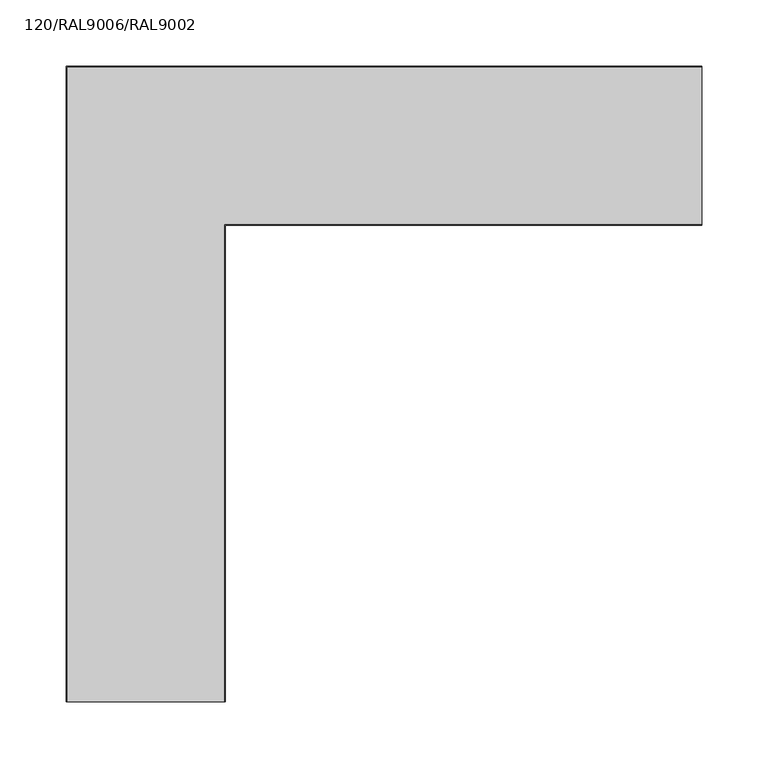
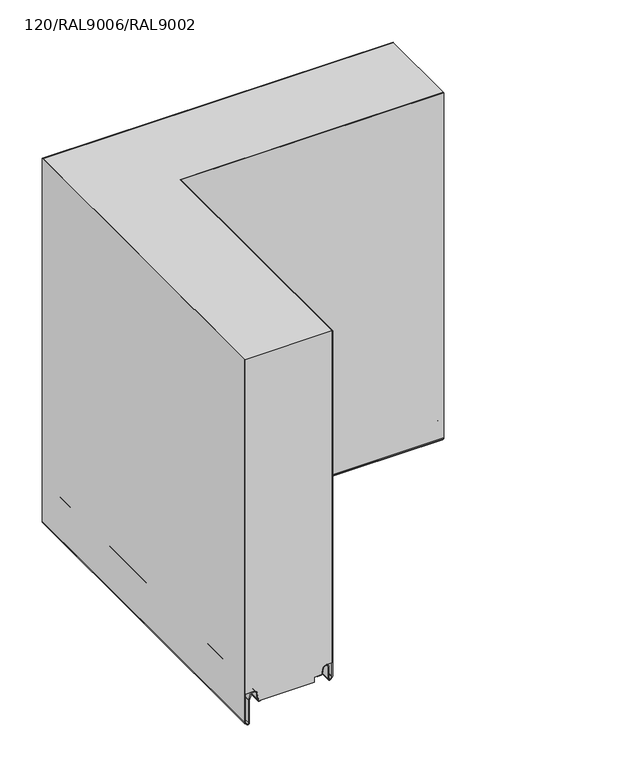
"""IFC4 building model written with IfcOpenShell, lengths in millimetres: plate geometry, TR_C_H_FHL_Corner_Tr_B_cut_GROOVE : 120/RAL9006/RAL9002."""

from ifc_helpers import new_model, si_unit, frame, origin, place, context, project, spatial, polyline, circle_curve, ellipse_curve, source, transform, mapped, element, save
from ifc_brep_helpers import plane_surface, cylinder_surface, revolved_surface, advanced_brep


def plate_120_ral9006_ral9002_a70e4969(model_context):
    return source(origin(), model_context, "Body", "AdvancedBrep", [
        advanced_brep(
        [(240.0, -20.8, 0.0), (240.0, -19.7908279, 0.1), (240.0, -18.0972969, 1.6518352), (240.0, -17.2333835, 11.5264116), (240.0, -12.3520294, 15.9993484), (240.0, -0.8, 15.9993484), (240.0, -0.8, 500.0), (240.0, -119.2, 500.0), (240.0, -119.2, 19.9), (240.0, -110.55, 19.9), (240.0, -106.364567, 16.3880048), (240.0, -105.0281817, 8.808987), (240.0, -103.9448932, 7.9), (240.0, -94.86, 7.9), (240.0, -94.86, 0.0), (-145.14, -94.86, 0.0), (-145.14, -480.0, 0.0), (-219.2, -480.0, 0.0), (-219.2, -20.8, 0.0), (-145.14, -480.0, 7.9), (-136.0551068, -480.0, 7.9), (-134.9718183, -480.0, 8.808987), (-133.635433, -480.0, 16.3880048), (-129.45, -480.0, 19.9), (-120.8, -480.0, 19.9), (-120.8, -480.0, 500.0), (-239.2, -480.0, 500.0), (-239.2, -480.0, 15.9993484), (-227.6479706, -480.0, 15.9993484), (-222.7666165, -480.0, 11.5264116), (-221.9027031, -480.0, 1.6518352), (-220.2091721, -480.0, 0.1), (-120.8, -119.2, 19.9), (-129.45, -110.55, 19.9), (-133.635433, -106.364567, 16.3880048), (-134.9718183, -105.0281817, 8.808987), (-136.0551068, -103.9448932, 7.9), (-145.14, -94.86, 7.9), (-220.2091721, -19.7908279, 0.1), (-221.9027031, -18.0972969, 1.6518352), (-222.7666165, -17.2333835, 11.5264116), (-227.6479706, -12.3520294, 15.9993484), (-239.2, -0.8, 15.9993484), (-239.2, -0.8, 500.0), (-120.8, -119.2, 500.0)],
        [
            (0, 1),
            (1, 2, circle_curve(frame((240.0, -19.7908279, 1.8), z_axis=(1.0, 0.0, 0.0), x_axis=(0.0, -1.0, 0.0)), 1.7)),
            (2, 3),
            (3, 4, circle_curve(frame((240.0, -12.3520294, 11.0993484), z_axis=(-1.0, 0.0, 0.0), x_axis=(0.0, -1.0, 0.0)), 4.9)),
            (4, 5),
            (5, 6),
            (6, 7),
            (7, 8),
            (8, 9),
            (9, 10, circle_curve(frame((240.0, -110.55, 15.65), z_axis=(-1.0, 0.0, 0.0), x_axis=(0.0, -1.0, 0.0)), 4.25)),
            (10, 11),
            (11, 12, circle_curve(frame((240.0, -103.9448932, 9.0), z_axis=(1.0, 0.0, 0.0), x_axis=(0.0, -1.0, 0.0)), 1.1)),
            (12, 13),
            (13, 14),
            (14, 0),
            (14, 15),
            (15, 16),
            (16, 17),
            (17, 18),
            (18, 0),
            (16, 19),
            (19, 20),
            (20, 21, circle_curve(frame((-136.0551068, -480.0, 9.0), z_axis=(0.0, -1.0, 0.0), x_axis=(1.0, 0.0, 0.0)), 1.1)),
            (21, 22),
            (22, 23, circle_curve(frame((-129.45, -480.0, 15.65), z_axis=(0.0, 1.0, 0.0), x_axis=(1.0, 0.0, 0.0)), 4.25)),
            (23, 24),
            (24, 25),
            (25, 26),
            (26, 27),
            (27, 28),
            (28, 29, circle_curve(frame((-227.6479706, -480.0, 11.0993484), z_axis=(0.0, 1.0, 0.0), x_axis=(1.0, 0.0, 0.0)), 4.9)),
            (29, 30),
            (30, 31, circle_curve(frame((-220.2091721, -480.0, 1.8), z_axis=(0.0, -1.0, 0.0), x_axis=(1.0, 0.0, 0.0)), 1.7)),
            (31, 17),
            (8, 32),
            (32, 24),
            (23, 33),
            (33, 9),
            (33, 34, ellipse_curve(frame((-129.45, -110.55, 15.65), z_axis=(-0.7071067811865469, -0.7071067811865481, 0.0), x_axis=(-0.7071067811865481, 0.7071067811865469, 0.0)), 6.0104076, 4.25)),
            (34, 10),
            (34, 35),
            (35, 11),
            (35, 36, ellipse_curve(frame((-136.0551068, -103.9448932, 9.0), z_axis=(0.7071067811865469, 0.7071067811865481, 0.0), x_axis=(0.7071067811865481, -0.7071067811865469, 0.0)), 1.5556349, 1.1)),
            (36, 12),
            (36, 20),
            (19, 37),
            (37, 13),
            (37, 15),
            (18, 38),
            (38, 1),
            (38, 39, ellipse_curve(frame((-220.2091721, -19.7908279, 1.8), z_axis=(0.7071067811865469, 0.7071067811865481, 0.0), x_axis=(0.7071067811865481, -0.7071067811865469, 0.0)), 2.4041631, 1.7)),
            (39, 2),
            (39, 40),
            (40, 3),
            (40, 41, ellipse_curve(frame((-227.6479706, -12.3520294, 11.0993484), z_axis=(-0.7071067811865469, -0.7071067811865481, 0.0), x_axis=(-0.7071067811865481, 0.7071067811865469, 0.0)), 6.9296465, 4.9)),
            (41, 4),
            (41, 28),
            (27, 42),
            (42, 5),
            (22, 34),
            (21, 35),
            (31, 38),
            (30, 39),
            (29, 40),
            (42, 43),
            (43, 6),
            (7, 44),
            (44, 32),
            (26, 43),
            (44, 25),
        ],
        [
            plane_surface(frame((240.0, 0.0, 0.0), z_axis=(1.0, 0.0, 0.0), x_axis=(0.0, 0.0, 1.0))),
            plane_surface(frame((240.0, -94.86, 0.0), z_axis=(0.0, 0.0, -1.0), x_axis=(-1.0, 0.0, 0.0))),
            plane_surface(frame((-240.0, -480.0, 0.0), z_axis=(0.0, -1.0, 0.0), x_axis=(0.0, 0.0, 1.0))),
            plane_surface(frame((240.0, -119.2, 19.9), z_axis=(0.0, 0.0, -1.0), x_axis=(-1.0, 0.0, 0.0))),
            revolved_surface(polyline([(-133.69999997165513, -114.8, 15.65), (240.0, -114.8, 15.65)]), (240.0, -110.55, 15.65), (-1.0, 0.0, 0.0)),
            plane_surface(frame((240.0, -106.364567, 16.3880048), z_axis=(0.0, -0.9848077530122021, -0.17364817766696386), x_axis=(-1.0, 0.0, 0.0))),
            cylinder_surface(frame((240.0, -103.9448932, 9.0), z_axis=(1.0, 0.0, 0.0), x_axis=(0.0, -1.0, 0.0)), 1.1),
            plane_surface(frame((240.0, -103.9448932, 7.9), z_axis=(0.0, 0.0, -1.0), x_axis=(-1.0, 0.0, 0.0))),
            plane_surface(frame((240.0, -94.86, 7.9), z_axis=(0.0, -1.0, 0.0), x_axis=(-1.0, 0.0, 0.0))),
            plane_surface(frame((240.0, -20.8, 0.0), z_axis=(0.0, 0.09860819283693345, -0.9951263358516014), x_axis=(-1.0, 0.0, 0.0))),
            cylinder_surface(frame((240.0, -19.7908279, 1.8), z_axis=(1.0, 0.0, 0.0), x_axis=(0.0, -1.0, 0.0)), 1.7),
            plane_surface(frame((240.0, -18.0972969, 1.6518352), z_axis=(0.0, 0.9961946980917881, -0.08715574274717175), x_axis=(-1.0, 0.0, 0.0))),
            revolved_surface(polyline([(-232.54797063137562, -17.252029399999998, 11.0993484), (240.0, -17.252029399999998, 11.0993484)]), (240.0, -12.3520294, 11.0993484), (-1.0, 0.0, 0.0)),
            plane_surface(frame((240.0, -12.3520294, 15.9993484), z_axis=(0.0, 0.0, -1.0), x_axis=(-1.0, 0.0, 0.0))),
            revolved_surface(polyline([(-125.19999999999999, -480.0, 15.65), (-125.19999999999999, -106.30000002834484, 15.65)]), (-129.45, 0.0, 15.65), (0.0, -1.0, 0.0)),
            plane_surface(frame((-133.635433, -106.364567, 16.3880048), z_axis=(0.9848077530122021, 0.0, -0.17364817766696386), x_axis=(0.0, -1.0, 0.0))),
            cylinder_surface(frame((-136.0551068, 0.0, 9.0), z_axis=(0.0, 1.0, 0.0), x_axis=(1.0, 0.0, 0.0)), 1.1),
            plane_surface(frame((-145.14, -94.86, 7.9), z_axis=(1.0, 0.0, 0.0), x_axis=(0.0, -1.0, 0.0))),
            plane_surface(frame((-219.2, -20.8, 0.0), z_axis=(-0.09860819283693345, 0.0, -0.9951263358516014), x_axis=(0.0, -1.0, 0.0))),
            cylinder_surface(frame((-220.2091721, 0.0, 1.8), z_axis=(0.0, 1.0, 0.0), x_axis=(1.0, 0.0, 0.0)), 1.7),
            plane_surface(frame((-221.9027031, -18.0972969, 1.6518352), z_axis=(-0.9961946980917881, 0.0, -0.08715574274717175), x_axis=(0.0, -1.0, 0.0))),
            revolved_surface(polyline([(-222.7479706, -480.0, 11.0993484), (-222.7479706, -7.452029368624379, 11.0993484)]), (-227.6479706, 0.0, 11.0993484), (0.0, -1.0, 0.0)),
            plane_surface(frame((240.0, -0.8, 15.9993484), z_axis=(0.0, 1.0, 0.0), x_axis=(-1.0, 0.0, 0.0))),
            plane_surface(frame((240.0, -119.2, 989.8218254), z_axis=(0.0, -1.0, 0.0), x_axis=(-1.0, 0.0, 0.0))),
            plane_surface(frame((-239.2, -0.8, 15.9993484), z_axis=(-1.0, 0.0, 0.0), x_axis=(0.0, -1.0, 0.0))),
            plane_surface(frame((-120.8, -119.2, 989.8218254), z_axis=(1.0, 0.0, 0.0), x_axis=(0.0, -1.0, 0.0))),
            plane_surface(frame((240.0, -120.0, 500.0), z_axis=(0.0, 0.0, 1.0), x_axis=(-1.0, 0.0, 0.0))),
        ],
        [
            (0, [[1, 2, 3, 4, 5, 6, 7, 8, 9, 10, 11, 12, 13, 14, 15]]),
            (1, [[-15, 16, 17, 18, 19, 20]]),
            (2, [[-18, 21, 22, 23, 24, 25, 26, 27, 28, 29, 30, 31, 32, 33, 34]]),
            (3, [[-9, 35, 36, -26, 37, 38]]),
            (4, [[-10, -38, 39, 40]]),
            (5, [[-11, -40, 41, 42]]),
            (6, [[-12, -42, 43, 44]]),
            (7, [[-13, -44, 45, -22, 46, 47]]),
            (8, [[-14, -47, 48, -16]]),
            (9, [[-1, -20, 49, 50]]),
            (10, [[-2, -50, 51, 52]]),
            (11, [[-3, -52, 53, 54]]),
            (12, [[-4, -54, 55, 56]]),
            (13, [[-5, -56, 57, -30, 58, 59]]),
            (14, [[-25, 60, -39, -37]]),
            (15, [[-24, 61, -41, -60]]),
            (16, [[-23, -45, -43, -61]]),
            (17, [[-17, -48, -46, -21]]),
            (18, [[-19, -34, 62, -49]]),
            (19, [[-33, 63, -51, -62]]),
            (20, [[-32, 64, -53, -63]]),
            (21, [[-31, -57, -55, -64]]),
            (22, [[-59, 65, 66, -6]]),
            (23, [[-35, -8, 67, 68]]),
            (24, [[-58, -29, 69, -65]]),
            (25, [[-36, -68, 70, -27]]),
            (26, [[-7, -66, -69, -28, -70, -67]]),
        ],
    ),
        advanced_brep(
        [(240.0, -0.8586044, -27.0752719), (240.0, 0.0, -25.1006169), (240.0, 0.0, 500.0), (240.0, -0.8, 500.0), (240.0, -0.8, -25.1006169), (240.0, -1.4042031, -26.4901889), (240.0, -3.3498018, -28.3044891), (240.0, -5.2, -27.5), (240.0, -5.2, 4.8267282), (240.0, -5.3797887, 5.9011031), (240.0, -7.7189884, 12.6946324), (240.0, -17.2333835, 11.5264116), (240.0, -18.0972969, 1.6518352), (240.0, -19.7908279, 0.1), (240.0, -20.8, 0.1), (240.0, -20.8, -0.7), (240.0, -19.7908279, -0.7), (240.0, -17.3003412, 1.5821106), (240.0, -16.4364277, 11.456687), (240.0, -8.4754033, 12.4341779), (240.0, -6.1362036, 5.6406486), (240.0, -6.0, 4.8267282), (240.0, -6.0, -27.5), (240.0, -2.8042031, -28.889572), (-239.1413956, -480.0, -27.0752719), (-237.1957969, -480.0, -28.889572), (-234.0, -480.0, -27.5), (-234.0, -480.0, 4.8267282), (-233.8637964, -480.0, 5.6406486), (-231.5245967, -480.0, 12.4341779), (-223.5635723, -480.0, 11.456687), (-222.6996588, -480.0, 1.5821106), (-220.2091721, -480.0, -0.7), (-219.2, -480.0, -0.7), (-219.2, -480.0, 0.1), (-220.2091721, -480.0, 0.1), (-221.9027031, -480.0, 1.6518352), (-222.7666165, -480.0, 11.5264116), (-232.2810116, -480.0, 12.6946324), (-234.6202113, -480.0, 5.9011031), (-234.8, -480.0, 4.8267282), (-234.8, -480.0, -27.5), (-236.6501982, -480.0, -28.3044891), (-238.5957969, -480.0, -26.4901889), (-239.2, -480.0, -25.1006169), (-239.2, -480.0, 500.0), (-240.0, -480.0, 500.0), (-240.0, -480.0, -25.1006169), (-239.2, -0.8, -25.1006169), (-238.5957969, -1.4042031, -26.4901889), (-236.6501982, -3.3498018, -28.3044891), (-234.8, -5.2, -27.5), (-234.8, -5.2, 4.8267282), (-234.6202113, -5.3797887, 5.9011031), (-232.2810116, -7.7189884, 12.6946324), (-222.7666165, -17.2333835, 11.5264116), (-221.9027031, -18.0972969, 1.6518352), (-220.2091721, -19.7908279, 0.1), (-219.2, -20.8, 0.1), (-219.2, -20.8, -0.7), (-220.2091721, -19.7908279, -0.7), (-222.6996588, -17.3003412, 1.5821106), (-223.5635723, -16.4364277, 11.456687), (-231.5245967, -8.4754033, 12.4341779), (-233.8637964, -6.1362036, 5.6406486), (-234.0, -6.0, 4.8267282), (-234.0, -6.0, -27.5), (-237.1957969, -2.8042031, -28.889572), (-239.1413956, -0.8586044, -27.0752719), (-240.0, 0.0, -25.1006169), (-240.0, 0.0, 500.0), (-239.2, -0.8, 500.0)],
        [
            (0, 1, circle_curve(frame((240.0, -2.7, -25.1006169), z_axis=(1.0, 0.0, 0.0), x_axis=(0.0, -1.0, 0.0)), 2.7)),
            (1, 2),
            (2, 3),
            (3, 4),
            (4, 5, circle_curve(frame((240.0, -2.7, -25.1006169), z_axis=(-1.0, 0.0, 0.0), x_axis=(0.0, -1.0, 0.0)), 1.9)),
            (5, 6),
            (6, 7, circle_curve(frame((240.0, -4.1, -27.5), z_axis=(-1.0, 0.0, 0.0), x_axis=(0.0, -1.0, 0.0)), 1.1)),
            (7, 8),
            (8, 9, circle_curve(frame((240.0, -8.5, 4.8267282), z_axis=(1.0, 0.0, 0.0), x_axis=(0.0, -1.0, 0.0)), 3.3)),
            (9, 10),
            (10, 11, circle_curve(frame((240.0, -12.3520294, 11.0993484), z_axis=(1.0, 0.0, 0.0), x_axis=(0.0, -1.0, 0.0)), 4.9)),
            (11, 12),
            (12, 13, circle_curve(frame((240.0, -19.7908279, 1.8), z_axis=(-1.0, 0.0, 0.0), x_axis=(0.0, -1.0, 0.0)), 1.7)),
            (13, 14),
            (14, 15),
            (15, 16),
            (16, 17, circle_curve(frame((240.0, -19.7908279, 1.8), z_axis=(1.0, 0.0, 0.0), x_axis=(0.0, -1.0, 0.0)), 2.5)),
            (17, 18),
            (18, 19, circle_curve(frame((240.0, -12.3520294, 11.0993484), z_axis=(-1.0, 0.0, 0.0), x_axis=(0.0, -1.0, 0.0)), 4.1)),
            (19, 20),
            (20, 21, circle_curve(frame((240.0, -8.5, 4.8267282), z_axis=(-1.0, 0.0, 0.0), x_axis=(0.0, -1.0, 0.0)), 2.5)),
            (21, 22),
            (22, 23, circle_curve(frame((240.0, -4.1, -27.5), z_axis=(1.0, 0.0, 0.0), x_axis=(0.0, -1.0, 0.0)), 1.9)),
            (23, 0),
            (24, 25),
            (25, 26, circle_curve(frame((-235.9, -480.0, -27.5), z_axis=(0.0, -1.0, 0.0), x_axis=(1.0, 0.0, 0.0)), 1.9)),
            (26, 27),
            (27, 28, circle_curve(frame((-231.5, -480.0, 4.8267282), z_axis=(0.0, 1.0, 0.0), x_axis=(1.0, 0.0, 0.0)), 2.5)),
            (28, 29),
            (29, 30, circle_curve(frame((-227.6479706, -480.0, 11.0993484), z_axis=(0.0, 1.0, 0.0), x_axis=(1.0, 0.0, 0.0)), 4.1)),
            (30, 31),
            (31, 32, circle_curve(frame((-220.2091721, -480.0, 1.8), z_axis=(0.0, -1.0, 0.0), x_axis=(1.0, 0.0, 0.0)), 2.5)),
            (32, 33),
            (33, 34),
            (34, 35),
            (35, 36, circle_curve(frame((-220.2091721, -480.0, 1.8), z_axis=(0.0, 1.0, 0.0), x_axis=(1.0, 0.0, 0.0)), 1.7)),
            (36, 37),
            (37, 38, circle_curve(frame((-227.6479706, -480.0, 11.0993484), z_axis=(0.0, -1.0, 0.0), x_axis=(1.0, 0.0, 0.0)), 4.9)),
            (38, 39),
            (39, 40, circle_curve(frame((-231.5, -480.0, 4.8267282), z_axis=(0.0, -1.0, 0.0), x_axis=(1.0, 0.0, 0.0)), 3.3)),
            (40, 41),
            (41, 42, circle_curve(frame((-235.9, -480.0, -27.5), z_axis=(0.0, 1.0, 0.0), x_axis=(1.0, 0.0, 0.0)), 1.1)),
            (42, 43),
            (43, 44, circle_curve(frame((-237.3, -480.0, -25.1006169), z_axis=(0.0, 1.0, 0.0), x_axis=(1.0, 0.0, 0.0)), 1.9)),
            (44, 45),
            (45, 46),
            (46, 47),
            (47, 24, circle_curve(frame((-237.3, -480.0, -25.1006169), z_axis=(0.0, -1.0, 0.0), x_axis=(1.0, 0.0, 0.0)), 2.7)),
            (4, 48),
            (48, 49, ellipse_curve(frame((-237.3, -2.7, -25.1006169), z_axis=(-0.7071067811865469, -0.7071067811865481, 0.0), x_axis=(-0.7071067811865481, 0.7071067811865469, 0.0)), 2.6870058, 1.9)),
            (49, 5),
            (49, 50),
            (50, 6),
            (50, 51, ellipse_curve(frame((-235.9, -4.1, -27.5), z_axis=(-0.7071067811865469, -0.7071067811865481, 0.0), x_axis=(-0.7071067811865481, 0.7071067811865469, 0.0)), 1.5556349, 1.1)),
            (51, 7),
            (51, 52),
            (52, 8),
            (52, 53, ellipse_curve(frame((-231.5, -8.5, 4.8267282), z_axis=(0.7071067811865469, 0.7071067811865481, 0.0), x_axis=(0.7071067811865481, -0.7071067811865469, 0.0)), 4.6669048, 3.3)),
            (53, 9),
            (53, 54),
            (54, 10),
            (54, 55, ellipse_curve(frame((-227.6479706, -12.3520294, 11.0993484), z_axis=(0.7071067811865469, 0.7071067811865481, 0.0), x_axis=(0.7071067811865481, -0.7071067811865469, 0.0)), 6.9296465, 4.9)),
            (55, 11),
            (55, 56),
            (56, 12),
            (56, 57, ellipse_curve(frame((-220.2091721, -19.7908279, 1.8), z_axis=(-0.7071067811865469, -0.7071067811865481, 0.0), x_axis=(-0.7071067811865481, 0.7071067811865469, 0.0)), 2.4041631, 1.7)),
            (57, 13),
            (57, 35),
            (34, 58),
            (58, 14),
            (58, 59),
            (59, 15),
            (59, 33),
            (32, 60),
            (60, 16),
            (60, 61, ellipse_curve(frame((-220.2091721, -19.7908279, 1.8), z_axis=(0.7071067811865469, 0.7071067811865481, 0.0), x_axis=(0.7071067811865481, -0.7071067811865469, 0.0)), 3.5355339, 2.5)),
            (61, 17),
            (61, 62),
            (62, 18),
            (62, 63, ellipse_curve(frame((-227.6479706, -12.3520294, 11.0993484), z_axis=(-0.7071067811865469, -0.7071067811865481, 0.0), x_axis=(-0.7071067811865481, 0.7071067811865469, 0.0)), 5.7982756, 4.1)),
            (63, 19),
            (63, 64),
            (64, 20),
            (64, 65, ellipse_curve(frame((-231.5, -8.5, 4.8267282), z_axis=(-0.7071067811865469, -0.7071067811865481, 0.0), x_axis=(-0.7071067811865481, 0.7071067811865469, 0.0)), 3.5355339, 2.5)),
            (65, 21),
            (65, 66),
            (66, 22),
            (66, 67, ellipse_curve(frame((-235.9, -4.1, -27.5), z_axis=(0.7071067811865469, 0.7071067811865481, 0.0), x_axis=(0.7071067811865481, -0.7071067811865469, 0.0)), 2.6870058, 1.9)),
            (67, 23),
            (67, 68),
            (68, 0),
            (68, 69, ellipse_curve(frame((-237.3, -2.7, -25.1006169), z_axis=(0.7071067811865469, 0.7071067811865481, 0.0), x_axis=(0.7071067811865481, -0.7071067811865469, 0.0)), 3.8183766, 2.7)),
            (69, 1),
            (43, 49),
            (48, 44),
            (42, 50),
            (41, 51),
            (40, 52),
            (39, 53),
            (38, 54),
            (37, 55),
            (36, 56),
            (31, 61),
            (30, 62),
            (29, 63),
            (28, 64),
            (27, 65),
            (26, 66),
            (25, 67),
            (24, 68),
            (47, 69),
            (69, 70),
            (70, 2),
            (3, 71),
            (71, 48),
            (46, 70),
            (71, 45),
        ],
        [
            plane_surface(frame((240.0, 0.0, 0.0), z_axis=(1.0, 0.0, 0.0), x_axis=(0.0, 0.0, 1.0))),
            plane_surface(frame((-240.0, -480.0, 0.0), z_axis=(0.0, -1.0, 0.0), x_axis=(0.0, 0.0, 1.0))),
            revolved_surface(polyline([(-239.2000000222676, -4.6, -25.1006169), (240.0, -4.6, -25.1006169)]), (240.0, -2.7, -25.1006169), (-1.0, 0.0, 0.0)),
            plane_surface(frame((240.0, -1.4042031, -26.4901889), z_axis=(0.0, -0.6819983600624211, 0.7313537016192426), x_axis=(-1.0, 0.0, 0.0))),
            revolved_surface(polyline([(-236.9999999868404, -5.199999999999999, -27.5), (240.0, -5.199999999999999, -27.5)]), (240.0, -4.1, -27.5), (-1.0, 0.0, 0.0)),
            plane_surface(frame((240.0, -5.2, -27.5), z_axis=(0.0, 1.0, 0.0), x_axis=(-1.0, 0.0, 0.0))),
            cylinder_surface(frame((240.0, -8.5, 4.8267282), z_axis=(1.0, 0.0, 0.0), x_axis=(0.0, -1.0, 0.0)), 3.3),
            plane_surface(frame((240.0, -5.3797887, 5.9011031), z_axis=(0.0, 0.9455185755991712, 0.32556815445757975), x_axis=(-1.0, 0.0, 0.0))),
            cylinder_surface(frame((240.0, -12.3520294, 11.0993484), z_axis=(1.0, 0.0, 0.0), x_axis=(0.0, -1.0, 0.0)), 4.9),
            plane_surface(frame((240.0, -17.2333835, 11.5264116), z_axis=(0.0, -0.9961946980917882, 0.08715574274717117), x_axis=(-1.0, 0.0, 0.0))),
            revolved_surface(polyline([(-221.90917213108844, -21.4908279, 1.8), (240.0, -21.4908279, 1.8)]), (240.0, -19.7908279, 1.8), (-1.0, 0.0, 0.0)),
            plane_surface(frame((240.0, -19.7908279, 0.1), z_axis=(0.0, 0.0, 1.0), x_axis=(-1.0, 0.0, 0.0))),
            plane_surface(frame((240.0, -20.8, 0.1), z_axis=(0.0, -1.0, 0.0), x_axis=(-1.0, 0.0, 0.0))),
            plane_surface(frame((240.0, -20.8, -0.7), z_axis=(0.0, 0.0, -1.0), x_axis=(-1.0, 0.0, 0.0))),
            cylinder_surface(frame((240.0, -19.7908279, 1.8), z_axis=(1.0, 0.0, 0.0), x_axis=(0.0, -1.0, 0.0)), 2.5),
            plane_surface(frame((240.0, -17.3003412, 1.5821106), z_axis=(0.0, 0.9961946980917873, -0.08715574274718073), x_axis=(-1.0, 0.0, 0.0))),
            revolved_surface(polyline([(-231.74797059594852, -16.4520294, 11.0993484), (240.0, -16.4520294, 11.0993484)]), (240.0, -12.3520294, 11.0993484), (-1.0, 0.0, 0.0)),
            plane_surface(frame((240.0, -8.4754033, 12.4341779), z_axis=(0.0, -0.9455185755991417, -0.3255681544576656), x_axis=(-1.0, 0.0, 0.0))),
            revolved_surface(polyline([(-234.0, -11.0, 4.8267282), (240.0, -11.0, 4.8267282)]), (240.0, -8.5, 4.8267282), (-1.0, 0.0, 0.0)),
            plane_surface(frame((240.0, -6.0, 4.8267282), z_axis=(0.0, -1.0, 0.0), x_axis=(-1.0, 0.0, 0.0))),
            cylinder_surface(frame((240.0, -4.1, -27.5), z_axis=(1.0, 0.0, 0.0), x_axis=(0.0, -1.0, 0.0)), 1.9),
            plane_surface(frame((240.0, -2.8042031, -28.889572), z_axis=(0.0, 0.6819983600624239, -0.7313537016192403), x_axis=(-1.0, 0.0, 0.0))),
            cylinder_surface(frame((240.0, -2.7, -25.1006169), z_axis=(1.0, 0.0, 0.0), x_axis=(0.0, -1.0, 0.0)), 2.7),
            revolved_surface(polyline([(-235.4, -480.0, -25.1006169), (-235.4, -0.7999999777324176, -25.1006169)]), (-237.3, 0.0, -25.1006169), (0.0, -1.0, 0.0)),
            plane_surface(frame((-238.5957969, -1.4042031, -26.4901889), z_axis=(0.6819983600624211, 0.0, 0.7313537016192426), x_axis=(0.0, -1.0, 0.0))),
            revolved_surface(polyline([(-234.8, -480.0, -27.5), (-234.8, -3.0000000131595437, -27.5)]), (-235.9, 0.0, -27.5), (0.0, -1.0, 0.0)),
            plane_surface(frame((-234.8, -5.2, -27.5), z_axis=(-1.0, 0.0, 0.0), x_axis=(0.0, -1.0, 0.0))),
            cylinder_surface(frame((-231.5, 0.0, 4.8267282), z_axis=(0.0, 1.0, 0.0), x_axis=(1.0, 0.0, 0.0)), 3.3),
            plane_surface(frame((-234.6202113, -5.3797887, 5.9011031), z_axis=(-0.9455185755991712, 0.0, 0.32556815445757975), x_axis=(0.0, -1.0, 0.0))),
            cylinder_surface(frame((-227.6479706, 0.0, 11.0993484), z_axis=(0.0, 1.0, 0.0), x_axis=(1.0, 0.0, 0.0)), 4.9),
            plane_surface(frame((-222.7666165, -17.2333835, 11.5264116), z_axis=(0.9961946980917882, 0.0, 0.08715574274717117), x_axis=(0.0, -1.0, 0.0))),
            revolved_surface(polyline([(-218.5091721, -480.0, 1.8), (-218.5091721, -18.09082786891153, 1.8)]), (-220.2091721, 0.0, 1.8), (0.0, -1.0, 0.0)),
            plane_surface(frame((-219.2, -20.8, 0.1), z_axis=(1.0, 0.0, 0.0), x_axis=(0.0, -1.0, 0.0))),
            cylinder_surface(frame((-220.2091721, 0.0, 1.8), z_axis=(0.0, 1.0, 0.0), x_axis=(1.0, 0.0, 0.0)), 2.5),
            plane_surface(frame((-222.6996588, -17.3003412, 1.5821106), z_axis=(-0.9961946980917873, 0.0, -0.08715574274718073), x_axis=(0.0, -1.0, 0.0))),
            revolved_surface(polyline([(-223.5479706, -480.0, 11.0993484), (-223.5479706, -8.252029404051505, 11.0993484)]), (-227.6479706, 0.0, 11.0993484), (0.0, -1.0, 0.0)),
            plane_surface(frame((-231.5245967, -8.4754033, 12.4341779), z_axis=(0.9455185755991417, 0.0, -0.3255681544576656), x_axis=(0.0, -1.0, 0.0))),
            revolved_surface(polyline([(-229.0, -480.0, 4.8267282), (-229.0, -6.0, 4.8267282)]), (-231.5, 0.0, 4.8267282), (0.0, -1.0, 0.0)),
            plane_surface(frame((-234.0, -6.0, 4.8267282), z_axis=(1.0, 0.0, 0.0), x_axis=(0.0, -1.0, 0.0))),
            cylinder_surface(frame((-235.9, 0.0, -27.5), z_axis=(0.0, 1.0, 0.0), x_axis=(1.0, 0.0, 0.0)), 1.9),
            plane_surface(frame((-237.1957969, -2.8042031, -28.889572), z_axis=(-0.6819983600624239, 0.0, -0.7313537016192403), x_axis=(0.0, -1.0, 0.0))),
            cylinder_surface(frame((-237.3, 0.0, -25.1006169), z_axis=(0.0, 1.0, 0.0), x_axis=(1.0, 0.0, 0.0)), 2.7),
            plane_surface(frame((240.0, 0.0, -25.1006169), z_axis=(0.0, 1.0, 0.0), x_axis=(-1.0, 0.0, 0.0))),
            plane_surface(frame((240.0, -0.8, 963.4370797), z_axis=(0.0, -1.0, 0.0), x_axis=(-1.0, 0.0, 0.0))),
            plane_surface(frame((-240.0, 0.0, -25.1006169), z_axis=(-1.0, 0.0, 0.0), x_axis=(0.0, -1.0, 0.0))),
            plane_surface(frame((-239.2, -0.8, 963.4370797), z_axis=(1.0, 0.0, 0.0), x_axis=(0.0, -1.0, 0.0))),
            plane_surface(frame((240.0, -120.0, 500.0), z_axis=(0.0, 0.0, 1.0), x_axis=(-1.0, 0.0, 0.0))),
        ],
        [
            (0, [[1, 2, 3, 4, 5, 6, 7, 8, 9, 10, 11, 12, 13, 14, 15, 16, 17, 18, 19, 20, 21, 22, 23, 24]]),
            (1, [[25, 26, 27, 28, 29, 30, 31, 32, 33, 34, 35, 36, 37, 38, 39, 40, 41, 42, 43, 44, 45, 46, 47, 48]]),
            (2, [[-5, 49, 50, 51]]),
            (3, [[-6, -51, 52, 53]]),
            (4, [[-7, -53, 54, 55]]),
            (5, [[-8, -55, 56, 57]]),
            (6, [[-9, -57, 58, 59]]),
            (7, [[-10, -59, 60, 61]]),
            (8, [[-11, -61, 62, 63]]),
            (9, [[-12, -63, 64, 65]]),
            (10, [[-13, -65, 66, 67]]),
            (11, [[-14, -67, 68, -35, 69, 70]]),
            (12, [[-15, -70, 71, 72]]),
            (13, [[-16, -72, 73, -33, 74, 75]]),
            (14, [[-17, -75, 76, 77]]),
            (15, [[-18, -77, 78, 79]]),
            (16, [[-19, -79, 80, 81]]),
            (17, [[-20, -81, 82, 83]]),
            (18, [[-21, -83, 84, 85]]),
            (19, [[-22, -85, 86, 87]]),
            (20, [[-23, -87, 88, 89]]),
            (21, [[-24, -89, 90, 91]]),
            (22, [[-1, -91, 92, 93]]),
            (23, [[-44, 94, -50, 95]]),
            (24, [[-43, 96, -52, -94]]),
            (25, [[-42, 97, -54, -96]]),
            (26, [[-41, 98, -56, -97]]),
            (27, [[-40, 99, -58, -98]]),
            (28, [[-39, 100, -60, -99]]),
            (29, [[-38, 101, -62, -100]]),
            (30, [[-37, 102, -64, -101]]),
            (31, [[-36, -68, -66, -102]]),
            (32, [[-34, -73, -71, -69]]),
            (33, [[-32, 103, -76, -74]]),
            (34, [[-31, 104, -78, -103]]),
            (35, [[-30, 105, -80, -104]]),
            (36, [[-29, 106, -82, -105]]),
            (37, [[-28, 107, -84, -106]]),
            (38, [[-27, 108, -86, -107]]),
            (39, [[-26, 109, -88, -108]]),
            (40, [[-25, 110, -90, -109]]),
            (41, [[-48, 111, -92, -110]]),
            (42, [[-93, 112, 113, -2]]),
            (43, [[-49, -4, 114, 115]]),
            (44, [[-111, -47, 116, -112]]),
            (45, [[-95, -115, 117, -45]]),
            (46, [[-3, -113, -116, -46, -117, -114]]),
        ],
    ),
        advanced_brep(
        [(240.0, -99.0, 7.1), (240.0, -99.0, 7.9), (240.0, -103.9448932, 7.9), (240.0, -105.0281817, 8.808987), (240.0, -106.364567, 16.3880048), (240.0, -114.8, 15.65), (240.0, -114.8, -1.95), (240.0, -116.7631728, -2.7631728), (240.0, -118.6288582, -0.8974874), (240.0, -119.2, 0.4813708), (240.0, -119.2, 500.0), (240.0, -120.0, 500.0), (240.0, -120.0, 0.4813708), (240.0, -119.1945436, -1.4631728), (240.0, -117.3288582, -3.3288582), (240.0, -114.0, -1.95), (240.0, -114.0, 15.65), (240.0, -107.1524133, 16.2490862), (240.0, -105.8160279, 8.6700685), (240.0, -103.9448932, 7.1), (-141.0, -480.0, 7.1), (-136.0551068, -480.0, 7.1), (-134.1839721, -480.0, 8.6700685), (-132.8475867, -480.0, 16.2490862), (-126.0, -480.0, 15.65), (-126.0, -480.0, -1.95), (-122.6711418, -480.0, -3.3288582), (-120.8054564, -480.0, -1.4631728), (-120.0, -480.0, 0.4813708), (-120.0, -480.0, 500.0), (-120.8, -480.0, 500.0), (-120.8, -480.0, 0.4813708), (-121.3711418, -480.0, -0.8974874), (-123.2368272, -480.0, -2.7631728), (-125.2, -480.0, -1.95), (-125.2, -480.0, 15.65), (-133.635433, -480.0, 16.3880048), (-134.9718183, -480.0, 8.808987), (-136.0551068, -480.0, 7.9), (-141.0, -480.0, 7.9), (-120.0, -120.0, 0.4813708), (-120.8054564, -119.1945436, -1.4631728), (-122.6711418, -117.3288582, -3.3288582), (-126.0, -114.0, -1.95), (-126.0, -114.0, 15.65), (-132.8475867, -107.1524133, 16.2490862), (-134.1839721, -105.8160279, 8.6700685), (-136.0551068, -103.9448932, 7.1), (-141.0, -99.0, 7.1), (-141.0, -99.0, 7.9), (-136.0551068, -103.9448932, 7.9), (-134.9718183, -105.0281817, 8.808987), (-133.635433, -106.364567, 16.3880048), (-125.2, -114.8, 15.65), (-125.2, -114.8, -1.95), (-123.2368272, -116.7631728, -2.7631728), (-121.3711418, -118.6288582, -0.8974874), (-120.8, -119.2, 0.4813708), (-120.8, -119.2, 500.0), (-120.0, -120.0, 500.0)],
        [
            (0, 1),
            (1, 2),
            (2, 3, circle_curve(frame((240.0, -103.9448932, 9.0), z_axis=(-1.0, 0.0, 0.0), x_axis=(0.0, -1.0, 0.0)), 1.1)),
            (3, 4),
            (4, 5, circle_curve(frame((240.0, -110.55, 15.65), z_axis=(1.0, 0.0, 0.0), x_axis=(0.0, -1.0, 0.0)), 4.25)),
            (5, 6),
            (6, 7, circle_curve(frame((240.0, -115.95, -1.95), z_axis=(-1.0, 0.0, 0.0), x_axis=(0.0, -1.0, 0.0)), 1.15)),
            (7, 8),
            (8, 9, circle_curve(frame((240.0, -117.25, 0.4813708), z_axis=(-1.0, 0.0, 0.0), x_axis=(0.0, -1.0, 0.0)), 1.95)),
            (9, 10),
            (10, 11),
            (11, 12),
            (12, 13, circle_curve(frame((240.0, -117.25, 0.4813708), z_axis=(1.0, 0.0, 0.0), x_axis=(0.0, -1.0, 0.0)), 2.75)),
            (13, 14),
            (14, 15, circle_curve(frame((240.0, -115.95, -1.95), z_axis=(1.0, 0.0, 0.0), x_axis=(0.0, -1.0, 0.0)), 1.95)),
            (15, 16),
            (16, 17, circle_curve(frame((240.0, -110.55, 15.65), z_axis=(-1.0, 0.0, 0.0), x_axis=(0.0, -1.0, 0.0)), 3.45)),
            (17, 18),
            (18, 19, circle_curve(frame((240.0, -103.9448932, 9.0), z_axis=(1.0, 0.0, 0.0), x_axis=(0.0, -1.0, 0.0)), 1.9)),
            (19, 0),
            (20, 21),
            (21, 22, circle_curve(frame((-136.0551068, -480.0, 9.0), z_axis=(0.0, -1.0, 0.0), x_axis=(1.0, 0.0, 0.0)), 1.9)),
            (22, 23),
            (23, 24, circle_curve(frame((-129.45, -480.0, 15.65), z_axis=(0.0, 1.0, 0.0), x_axis=(1.0, 0.0, 0.0)), 3.45)),
            (24, 25),
            (25, 26, circle_curve(frame((-124.05, -480.0, -1.95), z_axis=(0.0, -1.0, 0.0), x_axis=(1.0, 0.0, 0.0)), 1.95)),
            (26, 27),
            (27, 28, circle_curve(frame((-122.75, -480.0, 0.4813708), z_axis=(0.0, -1.0, 0.0), x_axis=(1.0, 0.0, 0.0)), 2.75)),
            (28, 29),
            (29, 30),
            (30, 31),
            (31, 32, circle_curve(frame((-122.75, -480.0, 0.4813708), z_axis=(0.0, 1.0, 0.0), x_axis=(1.0, 0.0, 0.0)), 1.95)),
            (32, 33),
            (33, 34, circle_curve(frame((-124.05, -480.0, -1.95), z_axis=(0.0, 1.0, 0.0), x_axis=(1.0, 0.0, 0.0)), 1.15)),
            (34, 35),
            (35, 36, circle_curve(frame((-129.45, -480.0, 15.65), z_axis=(0.0, -1.0, 0.0), x_axis=(1.0, 0.0, 0.0)), 4.25)),
            (36, 37),
            (37, 38, circle_curve(frame((-136.0551068, -480.0, 9.0), z_axis=(0.0, 1.0, 0.0), x_axis=(1.0, 0.0, 0.0)), 1.1)),
            (38, 39),
            (39, 20),
            (12, 40),
            (40, 41, ellipse_curve(frame((-122.75, -117.25, 0.4813708), z_axis=(0.7071067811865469, 0.7071067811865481, 0.0), x_axis=(0.7071067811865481, -0.7071067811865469, 0.0)), 3.8890873, 2.75)),
            (41, 13),
            (41, 42),
            (42, 14),
            (42, 43, ellipse_curve(frame((-124.05, -115.95, -1.95), z_axis=(0.7071067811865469, 0.7071067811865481, 0.0), x_axis=(0.7071067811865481, -0.7071067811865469, 0.0)), 2.7577164, 1.95)),
            (43, 15),
            (43, 44),
            (44, 16),
            (44, 45, ellipse_curve(frame((-129.45, -110.55, 15.65), z_axis=(-0.7071067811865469, -0.7071067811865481, 0.0), x_axis=(-0.7071067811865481, 0.7071067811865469, 0.0)), 4.8790368, 3.45)),
            (45, 17),
            (45, 46),
            (46, 18),
            (46, 47, ellipse_curve(frame((-136.0551068, -103.9448932, 9.0), z_axis=(0.7071067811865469, 0.7071067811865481, 0.0), x_axis=(0.7071067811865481, -0.7071067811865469, 0.0)), 2.6870058, 1.9)),
            (47, 19),
            (47, 21),
            (20, 48),
            (48, 0),
            (48, 49),
            (49, 1),
            (49, 39),
            (38, 50),
            (50, 2),
            (50, 51, ellipse_curve(frame((-136.0551068, -103.9448932, 9.0), z_axis=(-0.7071067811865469, -0.7071067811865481, 0.0), x_axis=(-0.7071067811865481, 0.7071067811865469, 0.0)), 1.5556349, 1.1)),
            (51, 3),
            (51, 52),
            (52, 4),
            (52, 53, ellipse_curve(frame((-129.45, -110.55, 15.65), z_axis=(0.7071067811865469, 0.7071067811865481, 0.0), x_axis=(0.7071067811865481, -0.7071067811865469, 0.0)), 6.0104076, 4.25)),
            (53, 5),
            (53, 54),
            (54, 6),
            (54, 55, ellipse_curve(frame((-124.05, -115.95, -1.95), z_axis=(-0.7071067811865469, -0.7071067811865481, 0.0), x_axis=(-0.7071067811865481, 0.7071067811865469, 0.0)), 1.6263456, 1.15)),
            (55, 7),
            (55, 56),
            (56, 8),
            (56, 57, ellipse_curve(frame((-122.75, -117.25, 0.4813708), z_axis=(-0.7071067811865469, -0.7071067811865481, 0.0), x_axis=(-0.7071067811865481, 0.7071067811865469, 0.0)), 2.7577164, 1.95)),
            (57, 9),
            (27, 41),
            (40, 28),
            (26, 42),
            (25, 43),
            (24, 44),
            (23, 45),
            (22, 46),
            (37, 51),
            (36, 52),
            (35, 53),
            (34, 54),
            (33, 55),
            (32, 56),
            (31, 57),
            (57, 58),
            (58, 10),
            (11, 59),
            (59, 40),
            (30, 58),
            (59, 29),
        ],
        [
            plane_surface(frame((240.0, 0.0, 0.0), z_axis=(1.0, 0.0, 0.0), x_axis=(0.0, 0.0, 1.0))),
            plane_surface(frame((-240.0, -480.0, 0.0), z_axis=(0.0, -1.0, 0.0), x_axis=(0.0, 0.0, 1.0))),
            cylinder_surface(frame((240.0, -117.25, 0.4813708), z_axis=(1.0, 0.0, 0.0), x_axis=(0.0, -1.0, 0.0)), 2.75),
            plane_surface(frame((240.0, -119.1945436, -1.4631728), z_axis=(0.0, -0.7071067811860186, -0.7071067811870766), x_axis=(-1.0, 0.0, 0.0))),
            cylinder_surface(frame((240.0, -115.95, -1.95), z_axis=(1.0, 0.0, 0.0), x_axis=(0.0, -1.0, 0.0)), 1.95),
            plane_surface(frame((240.0, -114.0, -1.95), z_axis=(0.0, 1.0, 0.0), x_axis=(-1.0, 0.0, 0.0))),
            revolved_surface(polyline([(-132.90000000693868, -114.0, 15.65), (240.0, -114.0, 15.65)]), (240.0, -110.55, 15.65), (-1.0, 0.0, 0.0)),
            plane_surface(frame((240.0, -107.1524133, 16.2490862), z_axis=(0.0, -0.9848077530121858, -0.17364817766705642), x_axis=(-1.0, 0.0, 0.0))),
            cylinder_surface(frame((240.0, -103.9448932, 9.0), z_axis=(1.0, 0.0, 0.0), x_axis=(0.0, -1.0, 0.0)), 1.9),
            plane_surface(frame((240.0, -103.9448932, 7.1), z_axis=(0.0, 0.0, -1.0), x_axis=(-1.0, 0.0, 0.0))),
            plane_surface(frame((240.0, -99.0, 7.1), z_axis=(0.0, 1.0, 0.0), x_axis=(-1.0, 0.0, 0.0))),
            plane_surface(frame((240.0, -99.0, 7.9), z_axis=(0.0, 0.0, 1.0), x_axis=(-1.0, 0.0, 0.0))),
            revolved_surface(polyline([(-137.1551067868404, -105.04489319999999, 9.0), (240.0, -105.04489319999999, 9.0)]), (240.0, -103.9448932, 9.0), (-1.0, 0.0, 0.0)),
            plane_surface(frame((240.0, -105.0281817, 8.808987), z_axis=(0.0, 0.9848077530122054, 0.1736481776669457), x_axis=(-1.0, 0.0, 0.0))),
            cylinder_surface(frame((240.0, -110.55, 15.65), z_axis=(1.0, 0.0, 0.0), x_axis=(0.0, -1.0, 0.0)), 4.25),
            plane_surface(frame((240.0, -114.8, 15.65), z_axis=(0.0, -1.0, 0.0), x_axis=(-1.0, 0.0, 0.0))),
            revolved_surface(polyline([(-125.20000000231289, -117.10000000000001, -1.95), (240.0, -117.10000000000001, -1.95)]), (240.0, -115.95, -1.95), (-1.0, 0.0, 0.0)),
            plane_surface(frame((240.0, -116.7631728, -2.7631728), z_axis=(0.0, 0.7071067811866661, 0.7071067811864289), x_axis=(-1.0, 0.0, 0.0))),
            revolved_surface(polyline([(-124.69999996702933, -119.2, 0.4813708), (240.0, -119.2, 0.4813708)]), (240.0, -117.25, 0.4813708), (-1.0, 0.0, 0.0)),
            cylinder_surface(frame((-122.75, 0.0, 0.4813708), z_axis=(0.0, 1.0, 0.0), x_axis=(1.0, 0.0, 0.0)), 2.75),
            plane_surface(frame((-120.8054564, -119.1945436, -1.4631728), z_axis=(0.7071067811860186, 0.0, -0.7071067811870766), x_axis=(0.0, -1.0, 0.0))),
            cylinder_surface(frame((-124.05, 0.0, -1.95), z_axis=(0.0, 1.0, 0.0), x_axis=(1.0, 0.0, 0.0)), 1.95),
            plane_surface(frame((-126.0, -114.0, -1.95), z_axis=(-1.0, 0.0, 0.0), x_axis=(0.0, -1.0, 0.0))),
            revolved_surface(polyline([(-125.99999999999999, -480.0, 15.65), (-125.99999999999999, -107.09999999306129, 15.65)]), (-129.45, 0.0, 15.65), (0.0, -1.0, 0.0)),
            plane_surface(frame((-132.8475867, -107.1524133, 16.2490862), z_axis=(0.9848077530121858, 0.0, -0.17364817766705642), x_axis=(0.0, -1.0, 0.0))),
            cylinder_surface(frame((-136.0551068, 0.0, 9.0), z_axis=(0.0, 1.0, 0.0), x_axis=(1.0, 0.0, 0.0)), 1.9),
            plane_surface(frame((-141.0, -99.0, 7.1), z_axis=(-1.0, 0.0, 0.0), x_axis=(0.0, -1.0, 0.0))),
            revolved_surface(polyline([(-134.9551068, -480.0, 9.0), (-134.9551068, -102.84489321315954, 9.0)]), (-136.0551068, 0.0, 9.0), (0.0, -1.0, 0.0)),
            plane_surface(frame((-134.9718183, -105.0281817, 8.808987), z_axis=(-0.9848077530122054, 0.0, 0.1736481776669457), x_axis=(0.0, -1.0, 0.0))),
            cylinder_surface(frame((-129.45, 0.0, 15.65), z_axis=(0.0, 1.0, 0.0), x_axis=(1.0, 0.0, 0.0)), 4.25),
            plane_surface(frame((-125.2, -114.8, 15.65), z_axis=(1.0, 0.0, 0.0), x_axis=(0.0, -1.0, 0.0))),
            revolved_surface(polyline([(-122.89999999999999, -480.0, -1.95), (-122.89999999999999, -114.7999999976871, -1.95)]), (-124.05, 0.0, -1.95), (0.0, -1.0, 0.0)),
            plane_surface(frame((-123.2368272, -116.7631728, -2.7631728), z_axis=(-0.7071067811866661, 0.0, 0.7071067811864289), x_axis=(0.0, -1.0, 0.0))),
            revolved_surface(polyline([(-120.8, -480.0, 0.4813708), (-120.8, -115.30000003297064, 0.4813708)]), (-122.75, 0.0, 0.4813708), (0.0, -1.0, 0.0)),
            plane_surface(frame((240.0, -119.2, 0.4813708), z_axis=(0.0, 1.0, 0.0), x_axis=(-1.0, 0.0, 0.0))),
            plane_surface(frame((240.0, -120.0, 989.8218254), z_axis=(0.0, -1.0, 0.0), x_axis=(-1.0, 0.0, 0.0))),
            plane_surface(frame((-120.8, -119.2, 0.4813708), z_axis=(-1.0, 0.0, 0.0), x_axis=(0.0, -1.0, 0.0))),
            plane_surface(frame((-120.0, -120.0, 989.8218254), z_axis=(1.0, 0.0, 0.0), x_axis=(0.0, -1.0, 0.0))),
            plane_surface(frame((240.0, -120.0, 500.0), z_axis=(0.0, 0.0, 1.0), x_axis=(-1.0, 0.0, 0.0))),
        ],
        [
            (0, [[1, 2, 3, 4, 5, 6, 7, 8, 9, 10, 11, 12, 13, 14, 15, 16, 17, 18, 19, 20]]),
            (1, [[21, 22, 23, 24, 25, 26, 27, 28, 29, 30, 31, 32, 33, 34, 35, 36, 37, 38, 39, 40]]),
            (2, [[-13, 41, 42, 43]]),
            (3, [[-14, -43, 44, 45]]),
            (4, [[-15, -45, 46, 47]]),
            (5, [[-16, -47, 48, 49]]),
            (6, [[-17, -49, 50, 51]]),
            (7, [[-18, -51, 52, 53]]),
            (8, [[-19, -53, 54, 55]]),
            (9, [[-20, -55, 56, -21, 57, 58]]),
            (10, [[-1, -58, 59, 60]]),
            (11, [[-2, -60, 61, -39, 62, 63]]),
            (12, [[-3, -63, 64, 65]]),
            (13, [[-4, -65, 66, 67]]),
            (14, [[-5, -67, 68, 69]]),
            (15, [[-6, -69, 70, 71]]),
            (16, [[-7, -71, 72, 73]]),
            (17, [[-8, -73, 74, 75]]),
            (18, [[-9, -75, 76, 77]]),
            (19, [[-28, 78, -42, 79]]),
            (20, [[-27, 80, -44, -78]]),
            (21, [[-26, 81, -46, -80]]),
            (22, [[-25, 82, -48, -81]]),
            (23, [[-24, 83, -50, -82]]),
            (24, [[-23, 84, -52, -83]]),
            (25, [[-22, -56, -54, -84]]),
            (26, [[-40, -61, -59, -57]]),
            (27, [[-38, 85, -64, -62]]),
            (28, [[-37, 86, -66, -85]]),
            (29, [[-36, 87, -68, -86]]),
            (30, [[-35, 88, -70, -87]]),
            (31, [[-34, 89, -72, -88]]),
            (32, [[-33, 90, -74, -89]]),
            (33, [[-32, 91, -76, -90]]),
            (34, [[-77, 92, 93, -10]]),
            (35, [[-41, -12, 94, 95]]),
            (36, [[-91, -31, 96, -92]]),
            (37, [[-79, -95, 97, -29]]),
            (38, [[-11, -93, -96, -30, -97, -94]]),
        ],
    ),
    ])


if __name__ == "__main__":
    model = new_model("IFC4")
    model_context = context("Model", 3, world=origin())
    ifc_project = project(units=[si_unit("LENGTHUNIT", "METRE", prefix="MILLI")], contexts=[model_context])
    site = spatial("IfcSite", under=ifc_project)
    building = spatial("IfcBuilding", under=site)
    placement = place(None, origin())
    plate_120_ral9006_ral9002_shape = plate_120_ral9006_ral9002_a70e4969(model_context)
    element("IfcPlate", 1, ObjectType="TR_C_H_FHL_Corner_Tr_B_cut_GROOVE : 120/RAL9006/RAL9002", at=placement, inside=building, context=model_context, shape_type="MappedRepresentation", body=[
        mapped(plate_120_ral9006_ral9002_shape, transform((0.0, 0.0, 0.0), x_axis=(1.0, 0.0, 0.0), y_axis=(0.0, 1.0, 0.0), z_axis=(0.0, 0.0, 1.0))),
    ])
    save(model, "model.ifc")
